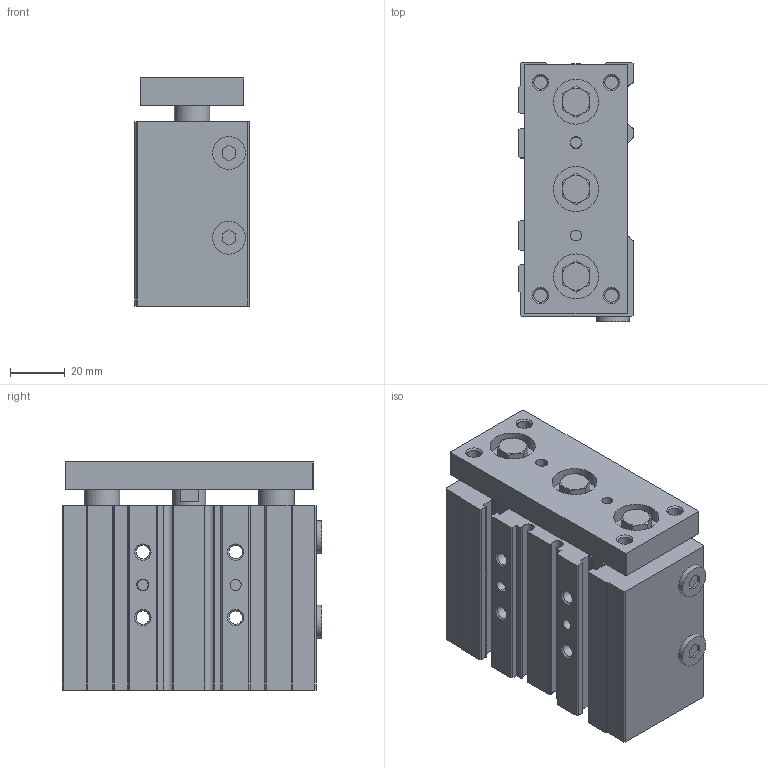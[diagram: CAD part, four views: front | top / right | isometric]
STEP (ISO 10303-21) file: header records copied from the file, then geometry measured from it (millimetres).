
FILE_DESCRIPTION( ( 'STEP AP214' ), '1' );
FILE_NAME( 'C:/Users/emc02044/Desktop/SGL SGM/SGL25X30-S.stp', '2026-07-24T02:26:08', ( 'License CC BY-ND 4.0' ), ( 'CADENAS' ), ' ', 'PARTsolutions', ' ' );
FILE_SCHEMA( ( 'AUTOMOTIVE_DESIGN { 1 0 10303 214 1 1 1 1 }' ) );
Length unit declared in the file: millimetre
Products named in the file (4): SGL25X30X0-S(); _SGL25x30-M(SG:Shaft cylinderL25X30X0-S:with magnet()dummy-0) 0; _SGL25x30-M(-0)-body; _SGL25x30-M(-0)-rod
Assembly tree (3 placements, depth 2):
  SGL25X30X0-S()
    _SGL25x30-M(SG:Shaft cylinderL25X30X0-S:with magnet()dummy-0) 0
    _SGL25x30-M(-0)-body
    _SGL25x30-M(-0)-rod
Bounding box: 42 x 95 x 83.5 mm (x, y, z)
Volume: 237924.5 mm3; surface area: 68722.1 mm2
Topology: 2 solids, 4 shells, 343 faces, 839 edges, 540 vertices
Faces by surface type: plane 174, cylinder 111, cone 58
Full cylindrical faces by diameter (mm): 4 x6, 4.917 x12, 5.2 x4, 8.566 x4, 9.5 x4, 12 x4, 13 x4, 16.5 x3, 19 x2, 25 x3
Entity records: 12634 total; most frequent: CARTESIAN_POINT 1964, DIRECTION 1650, ORIENTED_EDGE 1520, EDGE_CURVE 760, AXIS2_PLACEMENT_3D 633, VERTEX_POINT 528, EDGE_LOOP 466, FACE_OUTER_BOUND 389
